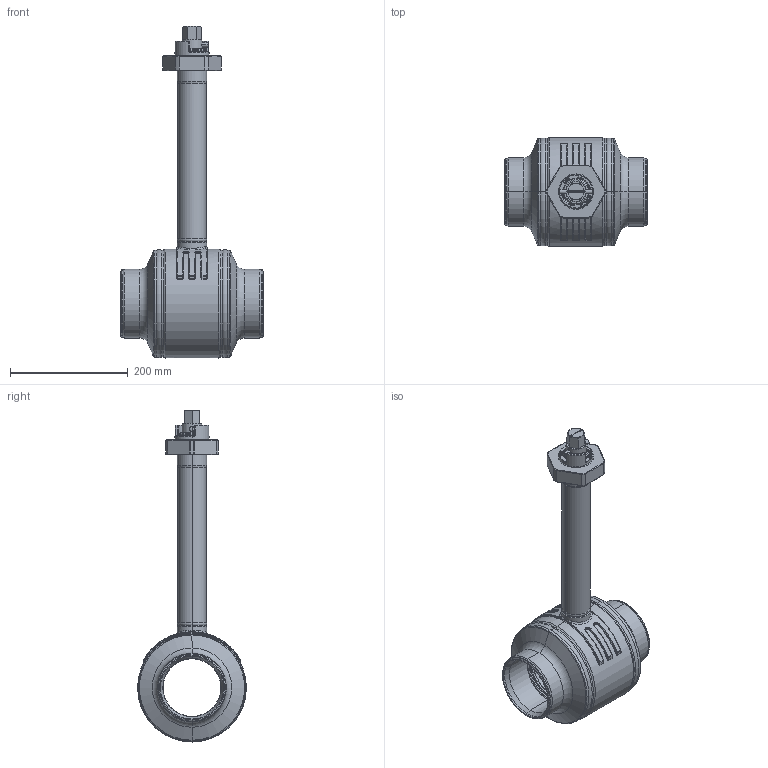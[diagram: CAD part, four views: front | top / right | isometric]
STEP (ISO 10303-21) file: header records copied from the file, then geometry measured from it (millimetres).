
FILE_DESCRIPTION((''),'2;1');
FILE_NAME('WSK21643-KHMO-U_KURZ_SW0001','2022-07-04T12:50:30',('jeitlers'),('KLINGER'),'CREO PARAMETRIC BY PTC INC, 2020184','CREO PARAMETRIC BY PTC INC, 2020184','');
FILE_SCHEMA(('AUTOMOTIVE_DESIGN { 1 0 10303 214 1 1 1 1 }'));
Length unit declared in the file: millimetre
Products named in the file (1): WSK21643-KHMO-U_KURZ_SW0001
Bounding box: 242 x 185 x 564.5 mm (x, y, z)
Volume: 2522625.7 mm3; surface area: 648465.2 mm2
Topology: 2 solids, 2 shells, 845 faces, 2028 edges, 1218 vertices
Faces by surface type: plane 299, cylinder 224, torus 162, cone 70, bspline 50, sphere 40
Entity records: 37667 total; most frequent: CARTESIAN_POINT 16995, DIRECTION 4302, ORIENTED_EDGE 4032, EDGE_CURVE 2016, AXIS2_PLACEMENT_3D 1661, VERTEX_POINT 1218, VECTOR 977, LINE 977
